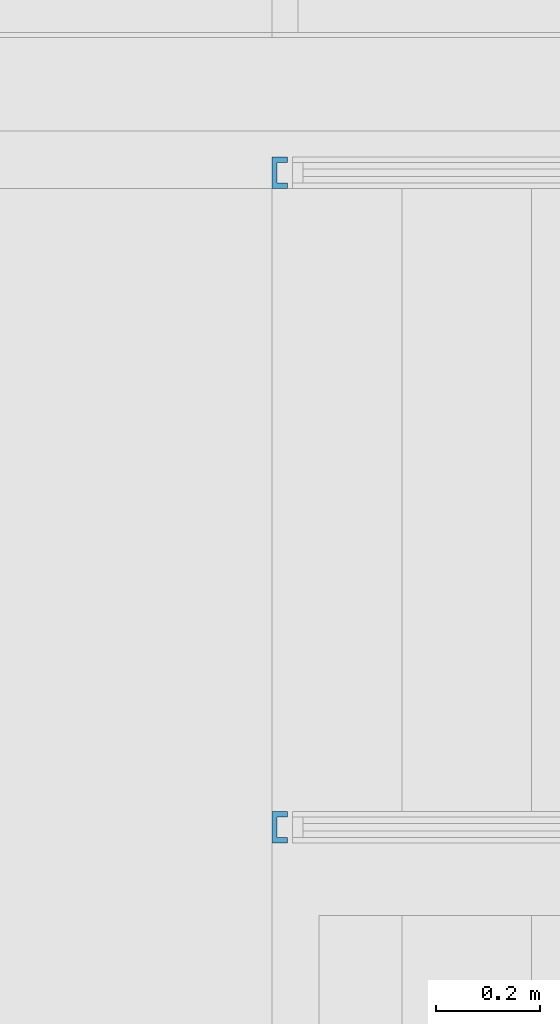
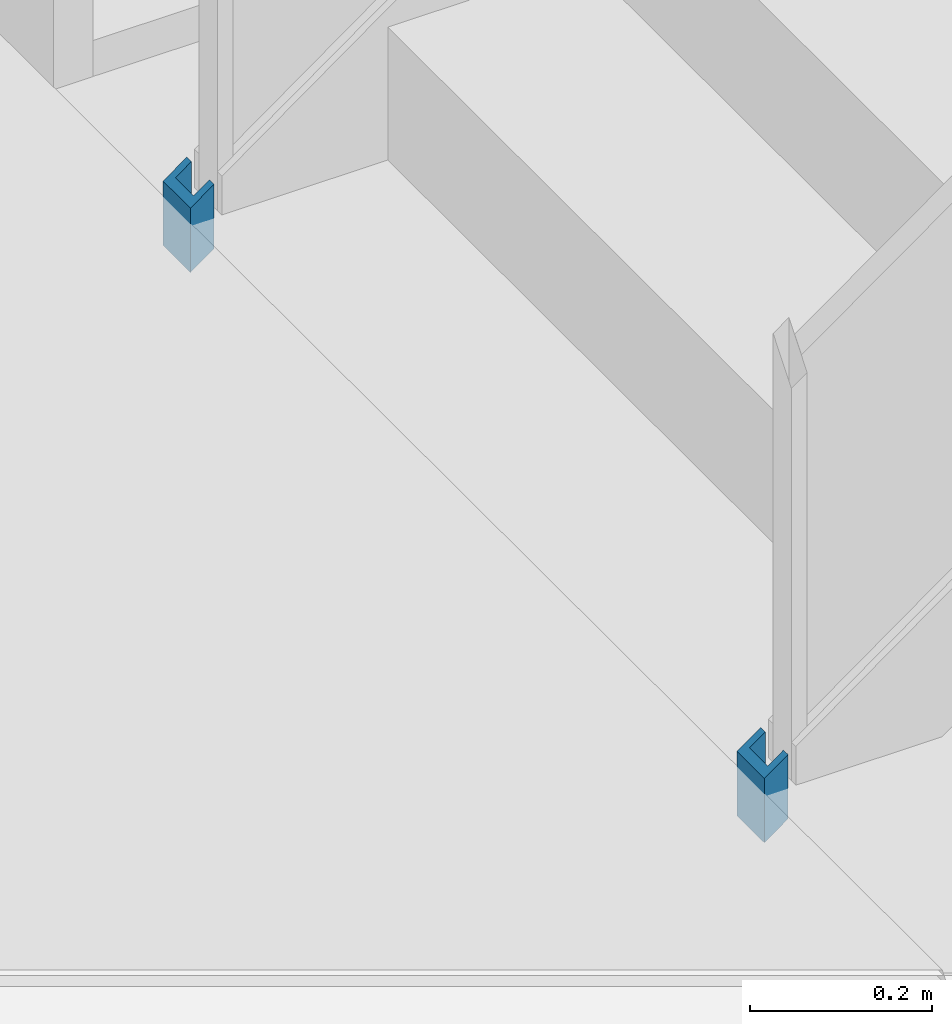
# One storey, part 87 of 347: 2 roofs.
"""IFC2X3 building model written with IfcOpenShell, lengths in millimetres."""

from ifc_helpers import new_model, entity, si_unit, converted_unit, derived_unit, money_unit, direction, frame, origin_with_axes, place, context, subcontext, project, spatial, faceted_brep, material, element, save


model = new_model("IFC2X3")

# Units and contexts
model_context = context("Model", 3, precision=0.01, world=origin_with_axes(), true_north=direction((0.0, 1.0)))
plan_context = context("Plan", 3, precision=0.01, world=origin_with_axes(), true_north=direction((0.0, 1.0)))
body_context = subcontext(model_context, "Body", "Model", "MODEL_VIEW")
ifc_project = project(units=[si_unit("LENGTHUNIT", "METRE", prefix="MILLI"), si_unit("AREAUNIT", "SQUARE_METRE"), si_unit("VOLUMEUNIT", "CUBIC_METRE"), converted_unit("PLANEANGLEUNIT", "DEGREE", entity("IfcPlaneAngleMeasure", 0.0174532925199), si_unit("PLANEANGLEUNIT", "RADIAN"), dimensions=[0, 0, 0, 0, 0, 0, 0]), money_unit("EUR"), converted_unit("TIMEUNIT", "Year", entity("IfcTimeMeasure", 31556926.0), si_unit("TIMEUNIT", "SECOND"), dimensions=[0, 0, 1, 0, 0, 0, 0]), si_unit("MASSUNIT", "GRAM", prefix="KILO"), si_unit("THERMODYNAMICTEMPERATUREUNIT", "DEGREE_CELSIUS"), si_unit("LUMINOUSINTENSITYUNIT", "LUMEN"), si_unit("ENERGYUNIT", "JOULE", prefix="MEGA"), derived_unit("THERMALCONDUCTANCEUNIT", [(si_unit("POWERUNIT", "WATT"), 1), (si_unit("LENGTHUNIT", "METRE"), -1), (si_unit("THERMODYNAMICTEMPERATUREUNIT", "KELVIN"), -1)]), derived_unit("SPECIFICHEATCAPACITYUNIT", [(si_unit("ENERGYUNIT", "JOULE"), 1), (si_unit("MASSUNIT", "GRAM", prefix="KILO"), -1), (si_unit("THERMODYNAMICTEMPERATUREUNIT", "KELVIN"), -1)]), derived_unit("MASSDENSITYUNIT", [(si_unit("MASSUNIT", "GRAM", prefix="KILO"), 1), (si_unit("VOLUMEUNIT", "CUBIC_METRE"), -1)])], contexts=[model_context, plan_context])

# Site, building, storey
site_placement = place(None, origin_with_axes())
site = spatial("IfcSite", under=ifc_project, at=site_placement, Name="Site", CompositionType="ELEMENT")
building_placement = place(site_placement, origin_with_axes())
building = spatial("IfcBuilding", under=site, at=building_placement, Name="Naam gebouw", CompositionType="ELEMENT")
storey_placement = place(building_placement, origin_with_axes())
storey = spatial("IfcBuildingStorey", under=building, at=storey_placement, Name="begane grond", CompositionType="ELEMENT", Elevation=0.0)

# Roofs
ifc_material = material(Name="Metaal - Staal C wit")
roof_1_placement = place(storey_placement, frame((20115.0, 18100.0, 118.37191953), z_axis=(0.0, 0.0, 1.0), x_axis=(0.0, 1.0, 0.0)))
element("IfcRoof", 1, at=roof_1_placement, inside=storey, material=ifc_material, Name="27_Dak-x", ShapeType="NOTDEFINED", context=body_context, shape_type="Brep", body=[
    faceted_brep([(-1.84626713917e-06, 220.000001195, -72.1251893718), (10.0000012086, 220.000001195, -72.1251893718), (10.0000012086, 239.999999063, -86.523127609), (50.0000010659, 239.999999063, -86.523127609), (50.0000010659, 220.000001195, -72.1251893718), (60.0, 220.000001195, -72.1251893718), (60.0, 249.999997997, -93.7220967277), (-1.84626713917e-06, 249.999997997, -93.7220967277), (-2.2357831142e-06, 220.000000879, -158.377338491), (10.000001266, 220.000000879, -158.377338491), (10.000001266, 239.999998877, -172.775276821), (50.0000013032, 239.999998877, -172.775276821), (50.0000013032, 220.000000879, -158.377338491), (60.0000001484, 220.000000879, -158.377338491), (60.0000001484, 249.999998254, -179.974246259), (-2.2357831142e-06, 249.999998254, -179.974246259)], [[[0, 1, 2, 3, 4, 5, 6, 7]], [[1, 0, 8, 9]], [[2, 1, 9, 10]], [[3, 2, 10, 11]], [[4, 3, 11, 12]], [[5, 4, 12, 13]], [[6, 5, 13, 14]], [[7, 6, 14, 15]], [[0, 7, 15, 8]], [[9, 8, 15, 14, 13, 12, 11, 10]]]),
])
roof_2_placement = place(storey_placement, frame((20115.0, 16840.0, 118.37191953), z_axis=(0.0, 0.0, 1.0), x_axis=(0.0, 1.0, 0.0)))
element("IfcRoof", 2, at=roof_2_placement, inside=storey, material=ifc_material, Name="27_Dak-x", ShapeType="NOTDEFINED", context=body_context, shape_type="Brep", body=[
    faceted_brep([(0.0, 249.999997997, -93.7220967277), (0.0, 220.000001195, -72.1251893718), (9.99999893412, 220.000001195, -72.1251893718), (9.99999893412, 239.999999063, -86.523127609), (49.9999987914, 239.999999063, -86.523127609), (49.9999987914, 220.000001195, -72.1251893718), (60.0000018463, 220.000001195, -72.1251893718), (60.0000018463, 249.999997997, -93.7220967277), (-3.89544396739e-07, 249.999998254, -179.974246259), (-3.89544396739e-07, 220.000000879, -158.377338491), (9.99999938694, 220.000000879, -158.377338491), (9.99999938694, 239.999998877, -172.775276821), (49.9999984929, 239.999998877, -172.775276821), (49.9999984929, 220.000000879, -158.377338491), (60.0000019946, 220.000000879, -158.377338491), (60.0000019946, 249.999998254, -179.974246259)], [[[0, 1, 2, 3, 4, 5, 6, 7]], [[1, 0, 8, 9]], [[2, 1, 9, 10]], [[3, 2, 10, 11]], [[4, 3, 11, 12]], [[5, 4, 12, 13]], [[6, 5, 13, 14]], [[7, 6, 14, 15]], [[0, 7, 15, 8]], [[9, 8, 15, 14, 13, 12, 11, 10]]]),
])

save(model, "model.ifc")
